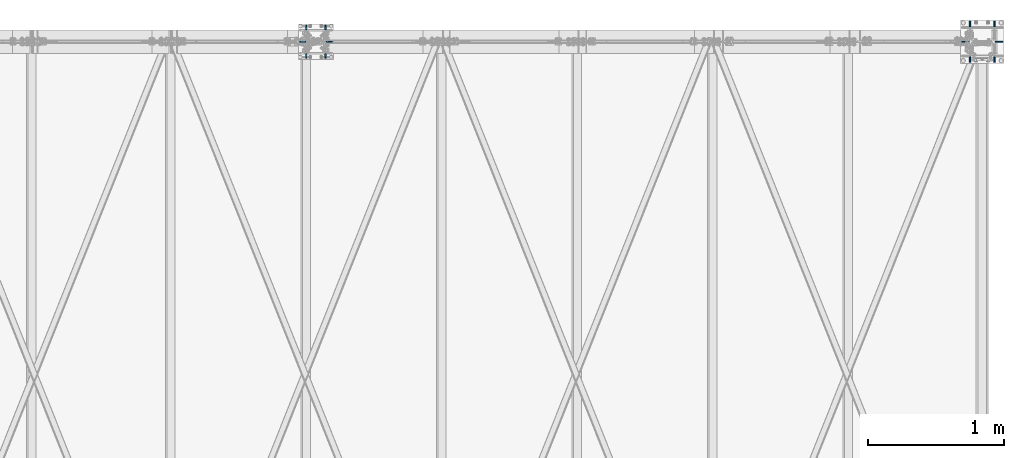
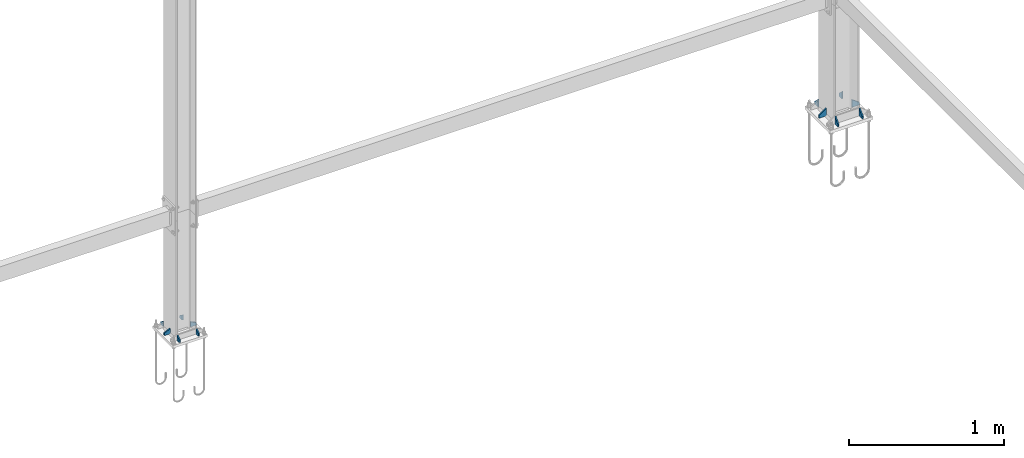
# One storey, part 16 of 251: 12 plates.
"""IFC4 building model written with IfcOpenShell, lengths in metres."""

from ifc_helpers import new_model, si_unit, frame, origin_with_axes, place, context, project, spatial, polyline, outline, extrude, type_object, element, save


model = new_model("IFC4")

# Units and contexts
model_context = context("Model", 3, precision=1e-05, world=origin_with_axes())
ifc_project = project(units=[si_unit("LENGTHUNIT", "METRE"), si_unit("AREAUNIT", "SQUARE_METRE"), si_unit("VOLUMEUNIT", "CUBIC_METRE"), si_unit("MASSUNIT", "GRAM", prefix="KILO"), si_unit("TIMEUNIT", "SECOND"), si_unit("PLANEANGLEUNIT", "RADIAN"), si_unit("SOLIDANGLEUNIT", "STERADIAN"), si_unit("THERMODYNAMICTEMPERATUREUNIT", "DEGREE_CELSIUS")], contexts=[model_context])

# Site, building, storey
placement_1 = place(None, origin_with_axes())
site = spatial("IfcSite", under=ifc_project, at=placement_1, Name="Italia", CompositionType="ELEMENT")
building = spatial("IfcBuilding", under=site, at=placement_1, Name="Deposito", CompositionType="ELEMENT")
storey = spatial("IfcBuildingStorey", under=building, at=placement_1, Name="Storey 0", CompositionType="ELEMENT", Elevation=0.0)

# Plates
plate_type_1 = type_object("IfcPlateType", Name="Collegamenti 0014_-001 0016_-054 0018_-056 0032_-002 0033_-058 0047_-003 0048_-060 0062_-004 0063_-005 0079_-008", PredefinedType="SHEET")
placement_2 = place(placement_1, origin_with_axes())
plate_1_placement = place(placement_2, origin_with_axes())
element("IfcPlate", 1, at=plate_1_placement, inside=storey, type_object=plate_type_1, Name="Collegamenti 0014_-001 0016_-054 0018_-056 0032_-002 0033_-058 0047_-003 0048_-060 0062_-004 0063_-005 0079_-008", context=model_context, shape_type="SweptSolid", body=[
    extrude(outline(polyline([(0.0, 0.0), (0.0, -0.02), (-0.0550003, -0.02), (-0.0550003, 0.04), (0.0, 0.0)])), frame((19.85, 19.995, 0.095), z_axis=(0.0, 1.0, 0.0), x_axis=(-1.0, 0.0, 0.0)), (0.0, 0.0, 1.0), 0.00999832),
])
plate_type_2 = type_object("IfcPlateType", Name="Collegamenti 0014_-001 0016_-054 0018_-056 0032_-002 0033_-058 0047_-003 0048_-060 0062_-004 0063_-005 0079_-008", PredefinedType="SHEET")
plate_2_placement = place(placement_2, origin_with_axes())
element("IfcPlate", 2, at=plate_2_placement, inside=storey, type_object=plate_type_2, Name="Collegamenti 0014_-001 0016_-054 0018_-056 0032_-002 0033_-058 0047_-003 0048_-060 0062_-004 0063_-005 0079_-008", context=model_context, shape_type="SweptSolid", body=[
    extrude(outline(polyline([(0.0, 0.0), (0.0, 0.02), (0.0550003, 0.06), (0.0550003, 0.0), (0.0, 0.0)])), frame((20.15, 19.995, 0.075), z_axis=(0.0, 1.0, 0.0), x_axis=(-1.0, 0.0, 0.0)), (0.0, 0.0, 1.0), 0.00999832),
])
plate_type_3 = type_object("IfcPlateType", Name="Collegamenti 0014_-001 0016_-054 0018_-056 0032_-002 0033_-058 0047_-003 0048_-060 0062_-004 0063_-005 0079_-008", PredefinedType="SHEET")
plate_3_placement = place(placement_2, origin_with_axes())
element("IfcPlate", 3, at=plate_3_placement, inside=storey, type_object=plate_type_3, Name="Collegamenti 0014_-001 0016_-054 0018_-056 0032_-002 0033_-058 0047_-003 0048_-060 0062_-004 0063_-005 0079_-008", context=model_context, shape_type="SweptSolid", body=[
    extrude(outline(polyline([(0.0, 0.0), (0.0, -0.02), (-0.039999, -0.02), (-0.039999, 0.04), (0.0, 0.0)])), frame((19.905, 20.15, 0.095), z_axis=(1.0, 0.0, 0.0), x_axis=(0.0, 1.0, 0.0)), (0.0, 0.0, 1.0), 0.0100002),
])
plate_type_4 = type_object("IfcPlateType", Name="Collegamenti 0014_-001 0016_-054 0018_-056 0032_-002 0033_-058 0047_-003 0048_-060 0062_-004 0063_-005 0079_-008", PredefinedType="SHEET")
plate_4_placement = place(placement_2, origin_with_axes())
element("IfcPlate", 4, at=plate_4_placement, inside=storey, type_object=plate_type_4, Name="Collegamenti 0014_-001 0016_-054 0018_-056 0032_-002 0033_-058 0047_-003 0048_-060 0062_-004 0063_-005 0079_-008", context=model_context, shape_type="SweptSolid", body=[
    extrude(outline(polyline([(0.0, 0.0), (0.0, 0.02), (0.039999, 0.06), (0.039999, 0.0), (0.0, 0.0)])), frame((19.905, 19.85, 0.075), z_axis=(1.0, 0.0, 0.0), x_axis=(0.0, 1.0, 0.0)), (0.0, 0.0, 1.0), 0.0100002),
])
plate_type_5 = type_object("IfcPlateType", Name="Collegamenti 0014_-001 0016_-054 0018_-056 0032_-002 0033_-058 0047_-003 0048_-060 0062_-004 0063_-005 0079_-008", PredefinedType="SHEET")
plate_5_placement = place(placement_2, origin_with_axes())
element("IfcPlate", 5, at=plate_5_placement, inside=storey, type_object=plate_type_5, Name="Collegamenti 0014_-001 0016_-054 0018_-056 0032_-002 0033_-058 0047_-003 0048_-060 0062_-004 0063_-005 0079_-008", context=model_context, shape_type="SweptSolid", body=[
    extrude(outline(polyline([(0.0, 0.0), (0.0, 0.02), (0.039999, 0.06), (0.039999, 0.0), (0.0, 0.0)])), frame((20.095, 20.15, 0.075), z_axis=(-1.0, 0.0, 0.0), x_axis=(0.0, -1.0, 0.0)), (0.0, 0.0, 1.0), 0.0100002),
])
plate_type_6 = type_object("IfcPlateType", Name="Collegamenti 0014_-001 0016_-054 0018_-056 0032_-002 0033_-058 0047_-003 0048_-060 0062_-004 0063_-005 0079_-008", PredefinedType="SHEET")
plate_6_placement = place(placement_2, origin_with_axes())
element("IfcPlate", 6, at=plate_6_placement, inside=storey, type_object=plate_type_6, Name="Collegamenti 0014_-001 0016_-054 0018_-056 0032_-002 0033_-058 0047_-003 0048_-060 0062_-004 0063_-005 0079_-008", context=model_context, shape_type="SweptSolid", body=[
    extrude(outline(polyline([(0.0, 0.0), (0.0, -0.02), (-0.039999, -0.02), (-0.039999, 0.04), (0.0, 0.0)])), frame((20.095, 19.85, 0.095), z_axis=(-1.0, 0.0, 0.0), x_axis=(0.0, -1.0, 0.0)), (0.0, 0.0, 1.0), 0.0100002),
])
plate_type_7 = type_object("IfcPlateType", Name="Collegamenti 0068_-006 0074_-007", PredefinedType="SHEET")
plate_7_placement = place(placement_2, origin_with_axes())
element("IfcPlate", 7, at=plate_7_placement, inside=storey, type_object=plate_type_7, Name="Collegamenti 0068_-006 0074_-007", context=model_context, shape_type="SweptSolid", body=[
    extrude(outline(polyline([(0.0, 0.0), (0.0, -0.02), (-0.0430002, -0.02), (-0.0430002, 0.02), (0.0, 0.0)])), frame((14.981, 19.995, 0.09), z_axis=(0.0, 1.0, 0.0), x_axis=(-1.0, 0.0, 0.0)), (0.0, 0.0, 1.0), 0.00999832),
])
plate_type_8 = type_object("IfcPlateType", Name="Collegamenti 0068_-006 0074_-007", PredefinedType="SHEET")
plate_8_placement = place(placement_2, origin_with_axes())
element("IfcPlate", 8, at=plate_8_placement, inside=storey, type_object=plate_type_8, Name="Collegamenti 0068_-006 0074_-007", context=model_context, shape_type="SweptSolid", body=[
    extrude(outline(polyline([(0.0, 0.0), (0.0, 0.02), (0.0430002, 0.04), (0.0430002, 0.0), (0.0, 0.0)])), frame((15.219, 19.995, 0.07), z_axis=(0.0, 1.0, 0.0), x_axis=(-1.0, 0.0, 0.0)), (0.0, 0.0, 1.0), 0.00999832),
])
plate_type_9 = type_object("IfcPlateType", Name="Collegamenti 0068_-006 0074_-007", PredefinedType="SHEET")
plate_9_placement = place(placement_2, origin_with_axes())
element("IfcPlate", 9, at=plate_9_placement, inside=storey, type_object=plate_type_9, Name="Collegamenti 0068_-006 0074_-007", context=model_context, shape_type="SweptSolid", body=[
    extrude(outline(polyline([(0.0, 0.0), (0.0, -0.02), (-0.0300007, -0.02), (-0.0300007, 0.02), (0.0, 0.0)])), frame((15.024, 20.12, 0.09), z_axis=(1.0, 0.0, 0.0), x_axis=(0.0, 1.0, 0.0)), (0.0, 0.0, 1.0), 0.0100002),
])
plate_type_10 = type_object("IfcPlateType", Name="Collegamenti 0068_-006 0074_-007", PredefinedType="SHEET")
plate_10_placement = place(placement_2, origin_with_axes())
element("IfcPlate", 10, at=plate_10_placement, inside=storey, type_object=plate_type_10, Name="Collegamenti 0068_-006 0074_-007", context=model_context, shape_type="SweptSolid", body=[
    extrude(outline(polyline([(0.0, 0.0), (0.0, 0.02), (0.0300007, 0.04), (0.0300007, 0.0), (0.0, 0.0)])), frame((15.024, 19.88, 0.07), z_axis=(1.0, 0.0, 0.0), x_axis=(0.0, 1.0, 0.0)), (0.0, 0.0, 1.0), 0.0100002),
])
plate_type_11 = type_object("IfcPlateType", Name="Collegamenti 0068_-006 0074_-007", PredefinedType="SHEET")
plate_11_placement = place(placement_2, origin_with_axes())
element("IfcPlate", 11, at=plate_11_placement, inside=storey, type_object=plate_type_11, Name="Collegamenti 0068_-006 0074_-007", context=model_context, shape_type="SweptSolid", body=[
    extrude(outline(polyline([(0.0, 0.0), (0.0, 0.02), (0.0300007, 0.04), (0.0300007, 0.0), (0.0, 0.0)])), frame((15.176, 20.12, 0.07), z_axis=(-1.0, 0.0, 0.0), x_axis=(0.0, -1.0, 0.0)), (0.0, 0.0, 1.0), 0.0100002),
])
plate_type_12 = type_object("IfcPlateType", Name="Collegamenti 0068_-006 0074_-007", PredefinedType="SHEET")
plate_12_placement = place(placement_2, origin_with_axes())
element("IfcPlate", 12, at=plate_12_placement, inside=storey, type_object=plate_type_12, Name="Collegamenti 0068_-006 0074_-007", context=model_context, shape_type="SweptSolid", body=[
    extrude(outline(polyline([(0.0, 0.0), (0.0, -0.02), (-0.0300007, -0.02), (-0.0300007, 0.02), (0.0, 0.0)])), frame((15.176, 19.88, 0.09), z_axis=(-1.0, 0.0, 0.0), x_axis=(0.0, -1.0, 0.0)), (0.0, 0.0, 1.0), 0.0100002),
])

save(model, "model.ifc")
